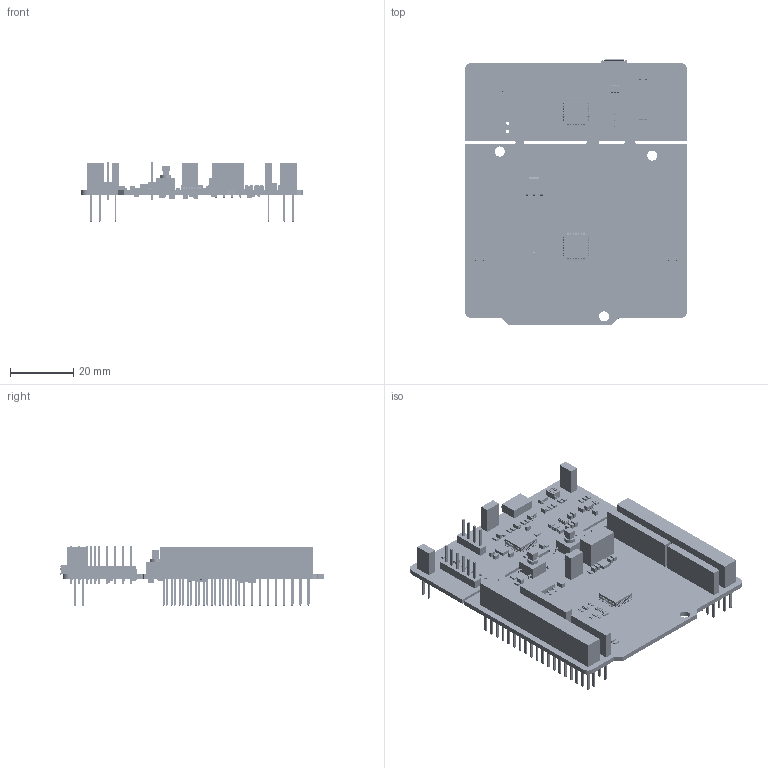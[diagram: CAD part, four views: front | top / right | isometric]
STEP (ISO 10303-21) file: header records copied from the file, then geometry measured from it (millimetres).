
FILE_DESCRIPTION(('Open CASCADE Model'),'2;1');
FILE_NAME('Open CASCADE Shape Model','2021-01-05T15:40:28',('Author'),( 'Open CASCADE'),'Open CASCADE STEP processor 6.8','Open CASCADE 6.8' ,'Unknown');
FILE_SCHEMA(('AUTOMOTIVE_DESIGN { 1 0 10303 214 1 1 1 1 }'));
Length unit declared in the file: millimetre
Products named in the file (291): PCB; Board; Open CASCADE STEP translator 6.8 1.1.1; SB30; R0603; 7374054768; Extruded; SB32; R31; R0402; 6292739456; D1; SOD323; 7579185648; SB17; U3; SOT23-5L; 6851073008; R22; 7579180208; R16; LD2; LED_0603_RED; User_Library-LED_0603_R_Pocket002; User_Library-LED_0603_R_Pad004; User_Library-LED_0603_R_Fillet; User_Library-LED_0603_R_Pocket001; User_Library-LED_0603_R_Pad; 7579174288; C14; C0603; 6292454464; C6; R5; R6; R7; T2; SOT23-3_TO-236AB; 7374055488; U5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
Assembly tree (559 placements, depth 4):
  PCB
    Board
      Open CASCADE STEP translator 6.8 1.1.1
    SB30
      R0603
      7374054768
        Extruded
    SB32
      R0603
      7374054768
        Extruded
    R31
      R0402
      6292739456
        Extruded
    D1
      SOD323
      7579185648
        Extruded
    SB17
      R0603
      7374054768
        Extruded
    U3
      SOT23-5L
      6851073008
        Extruded
    R22
      R0603
      7579180208
        Extruded
    R16
      R0603
      7579180208
        Extruded
    LD2
      LED_0603_RED
        User_Library-LED_0603_R_Pocket002
        User_Library-LED_0603_R_Pad004
        User_Library-LED_0603_R_Fillet
        User_Library-LED_0603_R_Pocket001
        User_Library-LED_0603_R_Pad
      7579174288
        Extruded
    C14
      C0603
      6292454464
        Extruded
    C6
      C0603
      6292454464
        Extruded
    R5
      R0603
      7579180208
        Extruded
    R6
      R0603
      7579180208
        Extruded
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Bounding box: 70.13 x 83.71 x 19.01 mm (x, y, z)
Volume: 20277.7 mm3; surface area: 33878.2 mm2
Topology: 573 solids, 576 shells, 19829 faces, 48051 edges, 28882 vertices
Faces by surface type: plane 11219, bspline 4314, cylinder 3978, sphere 250, torus 36, revolution 32
Full cylindrical faces by diameter (mm): 0.9 x2, 1 x104, 1.1 x32, 3.2 x3, 3.4 x2
Entity records: 201139 total; most frequent: CARTESIAN_POINT 44444, ORIENTED_EDGE 26392, DIRECTION 24997, EDGE_CURVE 13198, LINE 11209, VECTOR 11209, VERTEX_POINT 8298, AXIS2_PLACEMENT_3D 6890
